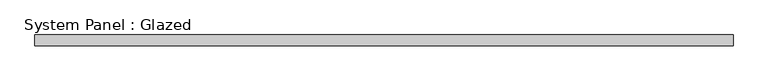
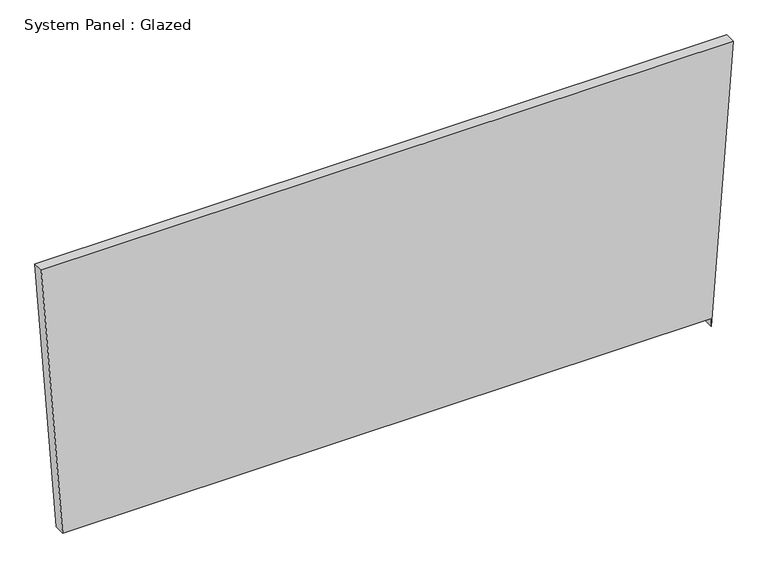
"""IFC4 building model written with IfcOpenShell, lengths in millimetres: plate geometry, System Panel : Glazed."""

import ifcopenshell
import ifcopenshell.guid

model = None  # the IFC model being written
_history = None  # IfcOwnerHistory: only IFC2X3 demands one
_inside = {}  # id of a spatial element -> (the spatial element, [elements in it])
_under = {}  # id of a project, library or spatial element -> (it, [spatial elements below it])
_declared = {}  # id of a project -> (the project, [libraries it declares])
_typed = {}  # id of a type object -> (the type object, [elements of that type])
_made_of = {}  # id of a material, layer set ... -> (it, [elements and type objects made of it])


def new_model(schema):
    """Start an empty IFC model of exactly this schema.

    Asked for "IFC4X3", IfcOpenShell would pick the latest addendum, in which some entities
    have other attributes; the version numbers below select the first issue.
    IFC2X3 requires an IfcOwnerHistory on every rooted entity: one is made here for all.
    """
    global model, _history
    if schema == "IFC4X3":
        model = ifcopenshell.file(schema_version=(4, 3, 0, 0))
    else:
        model = ifcopenshell.file(schema=schema)
    _inside.clear()
    _under.clear()
    _declared.clear()
    _typed.clear()
    _made_of.clear()
    _history = None
    if model.schema == "IFC2X3":
        org = make("IfcOrganization", Name="unknown")
        user = make(
            "IfcPersonAndOrganization",
            ThePerson=make("IfcPerson", FamilyName="unknown"),
            TheOrganization=org,
        )
        app = make(
            "IfcApplication",
            ApplicationDeveloper=org,
            Version="unknown",
            ApplicationFullName="unknown",
            ApplicationIdentifier="unknown",
        )
        _history = make(
            "IfcOwnerHistory",
            OwningUser=user,
            OwningApplication=app,
            ChangeAction="ADDED",
            CreationDate=0,
        )
    return model


def make(cls, **values):
    """One entity of the class cls with the attributes given. An attribute that is None is left unset."""
    return model.create_entity(
        cls, **{name: value for name, value in values.items() if value is not None}
    )


def rooted(cls, **values):
    """An entity with a GlobalId (a new one), such as an element, a storey or a relation."""
    return make(cls, GlobalId=ifcopenshell.guid.new(), OwnerHistory=_history, **values)


def si_unit(unit_type, name, prefix=None):
    """IfcSIUnit, for example si_unit("LENGTHUNIT", "METRE", prefix="MILLI")."""
    return make("IfcSIUnit", UnitType=unit_type, Prefix=prefix, Name=name)


def assignment(units):
    """IfcUnitAssignment: the units of a project."""
    return None if units is None else make("IfcUnitAssignment", Units=units)


def point(xyz):
    """IfcCartesianPoint."""
    return None if xyz is None else make("IfcCartesianPoint", Coordinates=xyz)


def direction(xyz):
    """IfcDirection."""
    return None if xyz is None else make("IfcDirection", DirectionRatios=xyz)


def frame(location, z_axis=None, x_axis=None):
    """IfcAxis2Placement3D, a coordinate frame: its origin and axes. An axis left out is left unset."""
    return make(
        "IfcAxis2Placement3D",
        Location=point(location),
        Axis=direction(z_axis),
        RefDirection=direction(x_axis),
    )


def origin():
    """The frame at (0, 0, 0) with its axes left unset."""
    return frame((0.0, 0.0, 0.0))


def place(relative_to, where):
    """IfcLocalPlacement: puts the frame where relative to a parent placement (None: the world)."""
    return make(
        "IfcLocalPlacement", PlacementRelTo=relative_to, RelativePlacement=where
    )


def context(
    kind, dimensions, precision=None, world=None, true_north=None, identifier=None
):
    """IfcGeometricRepresentationContext, for example the 3D "Model" context."""
    return make(
        "IfcGeometricRepresentationContext",
        ContextIdentifier=identifier,
        ContextType=kind,
        CoordinateSpaceDimension=dimensions,
        Precision=precision,
        WorldCoordinateSystem=world,
        TrueNorth=true_north,
    )


def project(units=None, contexts=None):
    """IfcProject with its units and contexts."""
    return rooted(
        "IfcProject",
        Name="project",
        RepresentationContexts=contexts,
        UnitsInContext=assignment(units),
    )


def spatial(cls, under=None, at=None, **own):
    """A site, building, storey or space (cls), placed at a placement, below another one or the project."""
    s = rooted(cls, ObjectPlacement=at, **own)
    if under is not None:
        _under.setdefault(under.id(), (under, []))[1].append(s)
    return s


def polyline(points):
    """IfcPolyline through the points."""
    return make("IfcPolyline", Points=[point(p) for p in points])


def outline(outer, holes=None, kind="AREA"):
    """IfcArbitraryClosedProfileDef: a profile drawn as a closed curve; with holes, ...WithVoids."""
    if holes is None:
        return make("IfcArbitraryClosedProfileDef", ProfileType=kind, OuterCurve=outer)
    return make(
        "IfcArbitraryProfileDefWithVoids",
        ProfileType=kind,
        OuterCurve=outer,
        InnerCurves=holes,
    )


def extrude(swept, where, along, depth):
    """IfcExtrudedAreaSolid: the profile swept, set in the frame where, extruded along a direction by depth."""
    return make(
        "IfcExtrudedAreaSolid",
        SweptArea=swept,
        Position=where,
        ExtrudedDirection=direction(along),
        Depth=depth,
    )


def shape(context_of_items, identifier, shape_type, items):
    """IfcShapeRepresentation: the items that make up one representation, for example the "Body"."""
    return make(
        "IfcShapeRepresentation",
        ContextOfItems=context_of_items,
        RepresentationIdentifier=identifier,
        RepresentationType=shape_type,
        Items=items,
    )


def source(mapping_origin, context_of_items, identifier, shape_type, items):
    """IfcRepresentationMap: a shape defined once, which mapped items show again and again."""
    return make(
        "IfcRepresentationMap",
        MappingOrigin=mapping_origin,
        MappedRepresentation=shape(context_of_items, identifier, shape_type, items),
    )


def transform(
    local_origin,
    x_axis=None,
    y_axis=None,
    z_axis=None,
    scale=None,
    scale2=None,
    scale3=None,
    uniform=True,
):
    """IfcCartesianTransformationOperator3D, or its non-uniform kind. x_axis, y_axis, z_axis: its Axis1, 2, 3."""
    if uniform:
        return make(
            "IfcCartesianTransformationOperator3D",
            Axis1=direction(x_axis),
            Axis2=direction(y_axis),
            LocalOrigin=point(local_origin),
            Scale=scale,
            Axis3=direction(z_axis),
        )
    return make(
        "IfcCartesianTransformationOperator3DnonUniform",
        Axis1=direction(x_axis),
        Axis2=direction(y_axis),
        LocalOrigin=point(local_origin),
        Scale=scale,
        Axis3=direction(z_axis),
        Scale2=scale2,
        Scale3=scale3,
    )


def mapped(mapping_source, mapping_target):
    """IfcMappedItem: shows the shape of a source again, moved by a transform."""
    return make(
        "IfcMappedItem", MappingSource=mapping_source, MappingTarget=mapping_target
    )


def made_of(thing, what):
    """Note that an element or type object is made of a material, layer set ...; save() writes the relation."""
    if what is not None:
        _made_of.setdefault(what.id(), (what, []))[1].append(thing)
    return thing


def element(
    cls,
    number,
    at=None,
    inside=None,
    cuts=None,
    type_object=None,
    material=None,
    context=None,
    identifier="Body",
    shape_type=None,
    held_by="IfcProductDefinitionShape",
    body=None,
    shapes=None,
    **own,
):
    """One element of the class cls, such as IfcWall. Its Tag is "e" and its number.

    at: its placement. inside: the storey or other place that contains it. cuts: it is an
    opening in that element (IfcRelVoidsElement). A single representation is given by context,
    identifier, shape_type and body (its items); several are given by shapes. held_by: the class
    of the entity that holds the representations. save() writes the other relations.
    """
    e = rooted(cls, Tag="e%d" % number, ObjectPlacement=at, **own)
    if body is not None:
        shapes = [shape(context, identifier, shape_type, body)]
    if shapes is not None:
        e.Representation = make(held_by, Representations=shapes)
    if inside is not None:
        _inside.setdefault(inside.id(), (inside, []))[1].append(e)
    if cuts is not None:
        rooted(
            "IfcRelVoidsElement", RelatingBuildingElement=cuts, RelatedOpeningElement=e
        )
    if type_object is not None:
        _typed.setdefault(type_object.id(), (type_object, []))[1].append(e)
    return made_of(e, material)


def aggregate(whole, parts):
    """IfcRelAggregates: a whole, such as a stair, and the parts it consists of."""
    return rooted("IfcRelAggregates", RelatingObject=whole, RelatedObjects=parts)


def save(model, path):
    """Write the relations noted so far, then the file.

    IfcRelAggregates (storeys below a building ...), IfcRelContainedInSpatialStructure (elements
    in a storey), IfcRelDefinesByType, IfcRelAssociatesMaterial and IfcRelDeclares: one each for
    every whole, place, type object, material and project.
    """
    for whole, parts in _under.values():
        aggregate(whole, parts)
    for where, things in _inside.values():
        rooted(
            "IfcRelContainedInSpatialStructure",
            RelatedElements=things,
            RelatingStructure=where,
        )
    for kind, things in _typed.values():
        rooted("IfcRelDefinesByType", RelatedObjects=things, RelatingType=kind)
    for what, things in _made_of.values():
        rooted("IfcRelAssociatesMaterial", RelatedObjects=things, RelatingMaterial=what)
    for by, libraries in _declared.values():
        rooted("IfcRelDeclares", RelatingContext=by, RelatedDefinitions=libraries)
    model.write(path)


def system_panel_glazed_5f14ad94(model_context):
    return source(origin(), model_context, "Body", "SweptSolid", [
        extrude(outline(polyline([(19.05, 751.83442), (0.0, 751.8344061), (682.3771629, 802.6620948), (682.3783329, -802.6620948), (19.0510969, -753.2533629), (19.05, 751.83442)])), frame((0.0, 19.05, 0.0), z_axis=(0.0, 1.0, 0.0), x_axis=(0.0, 0.0, 1.0)), (0.0, 0.0, 1.0), 25.4),
    ])


if __name__ == "__main__":
    model = new_model("IFC4")
    model_context = context("Model", 3, world=origin())
    ifc_project = project(units=[si_unit("LENGTHUNIT", "METRE", prefix="MILLI")], contexts=[model_context])
    site = spatial("IfcSite", under=ifc_project)
    building = spatial("IfcBuilding", under=site)
    placement = place(None, origin())
    system_panel_glazed_shape = system_panel_glazed_5f14ad94(model_context)
    element("IfcPlate", 1, ObjectType="System Panel : Glazed", at=placement, inside=building, context=model_context, shape_type="MappedRepresentation", body=[
        mapped(system_panel_glazed_shape, transform((0.0, 0.0, 0.0), x_axis=(1.0, 0.0, 0.0), y_axis=(0.0, 1.0, 0.0), z_axis=(0.0, 0.0, 1.0))),
    ])
    save(model, "model.ifc")
